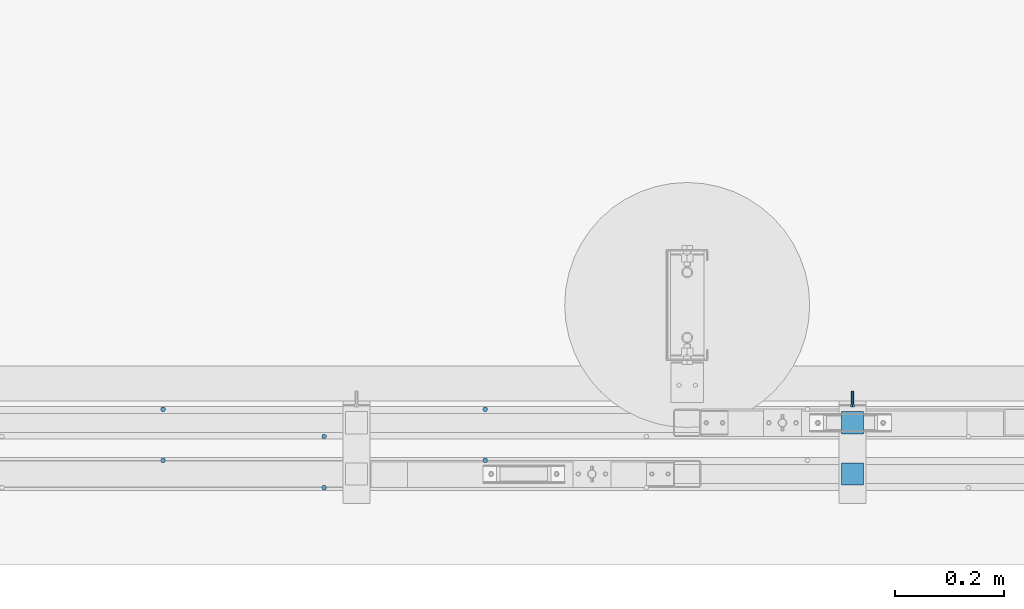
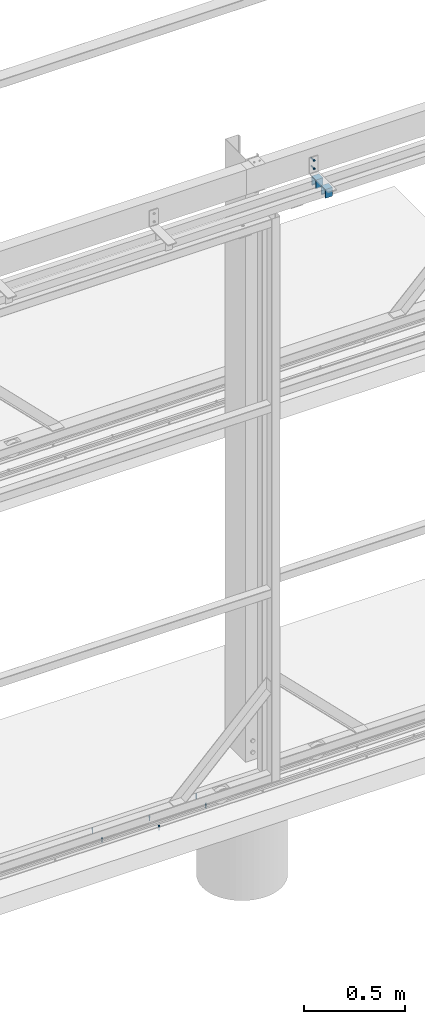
# One storey, part 45 of 91: 7 mechanical fasteners, 2 discrete accessories, 3 elements without a shape of their own.
"""IFC2X3 building model written with IfcOpenShell, lengths in millimetres."""

import ifcopenshell
import ifcopenshell.guid

model = None  # the IFC model being written
_history = None  # IfcOwnerHistory: only IFC2X3 demands one
_inside = {}  # id of a spatial element -> (the spatial element, [elements in it])
_under = {}  # id of a project, library or spatial element -> (it, [spatial elements below it])
_declared = {}  # id of a project -> (the project, [libraries it declares])
_typed = {}  # id of a type object -> (the type object, [elements of that type])
_made_of = {}  # id of a material, layer set ... -> (it, [elements and type objects made of it])


def new_model(schema):
    """Start an empty IFC model of exactly this schema.

    Asked for "IFC4X3", IfcOpenShell would pick the latest addendum, in which some entities
    have other attributes; the version numbers below select the first issue.
    IFC2X3 requires an IfcOwnerHistory on every rooted entity: one is made here for all.
    """
    global model, _history
    if schema == "IFC4X3":
        model = ifcopenshell.file(schema_version=(4, 3, 0, 0))
    else:
        model = ifcopenshell.file(schema=schema)
    _inside.clear()
    _under.clear()
    _declared.clear()
    _typed.clear()
    _made_of.clear()
    _history = None
    if model.schema == "IFC2X3":
        org = make("IfcOrganization", Name="unknown")
        user = make(
            "IfcPersonAndOrganization",
            ThePerson=make("IfcPerson", FamilyName="unknown"),
            TheOrganization=org,
        )
        app = make(
            "IfcApplication",
            ApplicationDeveloper=org,
            Version="unknown",
            ApplicationFullName="unknown",
            ApplicationIdentifier="unknown",
        )
        _history = make(
            "IfcOwnerHistory",
            OwningUser=user,
            OwningApplication=app,
            ChangeAction="ADDED",
            CreationDate=0,
        )
    return model


def make(cls, **values):
    """One entity of the class cls with the attributes given. An attribute that is None is left unset."""
    return model.create_entity(
        cls, **{name: value for name, value in values.items() if value is not None}
    )


def rooted(cls, **values):
    """An entity with a GlobalId (a new one), such as an element, a storey or a relation."""
    return make(cls, GlobalId=ifcopenshell.guid.new(), OwnerHistory=_history, **values)


def si_unit(unit_type, name, prefix=None):
    """IfcSIUnit, for example si_unit("LENGTHUNIT", "METRE", prefix="MILLI")."""
    return make("IfcSIUnit", UnitType=unit_type, Prefix=prefix, Name=name)


def assignment(units):
    """IfcUnitAssignment: the units of a project."""
    return None if units is None else make("IfcUnitAssignment", Units=units)


def point(xyz):
    """IfcCartesianPoint."""
    return None if xyz is None else make("IfcCartesianPoint", Coordinates=xyz)


def direction(xyz):
    """IfcDirection."""
    return None if xyz is None else make("IfcDirection", DirectionRatios=xyz)


def frame(location, z_axis=None, x_axis=None):
    """IfcAxis2Placement3D, a coordinate frame: its origin and axes. An axis left out is left unset."""
    return make(
        "IfcAxis2Placement3D",
        Location=point(location),
        Axis=direction(z_axis),
        RefDirection=direction(x_axis),
    )


def frame_2d(location, x_axis=None):
    """IfcAxis2Placement2D, a coordinate frame in the plane: its origin and x axis."""
    return make(
        "IfcAxis2Placement2D", Location=point(location), RefDirection=direction(x_axis)
    )


def origin_with_axes():
    """The frame at (0, 0, 0) with the z axis (0, 0, 1) and the x axis (1, 0, 0) written out."""
    return frame((0.0, 0.0, 0.0), z_axis=(0.0, 0.0, 1.0), x_axis=(1.0, 0.0, 0.0))


def origin_2d_with_axis():
    """The frame at (0, 0) in the plane with the x axis (1, 0) written out."""
    return frame_2d((0.0, 0.0), x_axis=(1.0, 0.0))


def place(relative_to, where):
    """IfcLocalPlacement: puts the frame where relative to a parent placement (None: the world)."""
    return make(
        "IfcLocalPlacement", PlacementRelTo=relative_to, RelativePlacement=where
    )


def context(
    kind, dimensions, precision=None, world=None, true_north=None, identifier=None
):
    """IfcGeometricRepresentationContext, for example the 3D "Model" context."""
    return make(
        "IfcGeometricRepresentationContext",
        ContextIdentifier=identifier,
        ContextType=kind,
        CoordinateSpaceDimension=dimensions,
        Precision=precision,
        WorldCoordinateSystem=world,
        TrueNorth=true_north,
    )


def subcontext(parent, identifier, kind, view, scale=None):
    """IfcGeometricRepresentationSubContext, for example "Body" below "Model"."""
    return make(
        "IfcGeometricRepresentationSubContext",
        ContextIdentifier=identifier,
        ContextType=kind,
        ParentContext=parent,
        TargetScale=scale,
        TargetView=view,
    )


def project(units=None, contexts=None):
    """IfcProject with its units and contexts."""
    return rooted(
        "IfcProject",
        Name="project",
        RepresentationContexts=contexts,
        UnitsInContext=assignment(units),
    )


def spatial(cls, under=None, at=None, **own):
    """A site, building, storey or space (cls), placed at a placement, below another one or the project."""
    s = rooted(cls, ObjectPlacement=at, **own)
    if under is not None:
        _under.setdefault(under.id(), (under, []))[1].append(s)
    return s


def polyline(points):
    """IfcPolyline through the points."""
    return make("IfcPolyline", Points=[point(p) for p in points])


def profile(cls, at=None, kind="AREA", **sizes):
    """A parametric profile (cls). Its sizes go by their IFC names, for example OverallWidth=200.0."""
    return make(cls, ProfileType=kind, Position=at, **sizes)


def circle(**sizes):
    """IfcCircleProfileDef."""
    return profile("IfcCircleProfileDef", **sizes)


def c_section(**sizes):
    """IfcCShapeProfileDef."""
    return profile("IfcCShapeProfileDef", **sizes)


def outline(outer, holes=None, kind="AREA"):
    """IfcArbitraryClosedProfileDef: a profile drawn as a closed curve; with holes, ...WithVoids."""
    if holes is None:
        return make("IfcArbitraryClosedProfileDef", ProfileType=kind, OuterCurve=outer)
    return make(
        "IfcArbitraryProfileDefWithVoids",
        ProfileType=kind,
        OuterCurve=outer,
        InnerCurves=holes,
    )


def extrude(swept, where, along, depth):
    """IfcExtrudedAreaSolid: the profile swept, set in the frame where, extruded along a direction by depth."""
    return make(
        "IfcExtrudedAreaSolid",
        SweptArea=swept,
        Position=where,
        ExtrudedDirection=direction(along),
        Depth=depth,
    )


def shape(context_of_items, identifier, shape_type, items):
    """IfcShapeRepresentation: the items that make up one representation, for example the "Body"."""
    return make(
        "IfcShapeRepresentation",
        ContextOfItems=context_of_items,
        RepresentationIdentifier=identifier,
        RepresentationType=shape_type,
        Items=items,
    )


def source(mapping_origin, context_of_items, identifier, shape_type, items):
    """IfcRepresentationMap: a shape defined once, which mapped items show again and again."""
    return make(
        "IfcRepresentationMap",
        MappingOrigin=mapping_origin,
        MappedRepresentation=shape(context_of_items, identifier, shape_type, items),
    )


def transform(
    local_origin,
    x_axis=None,
    y_axis=None,
    z_axis=None,
    scale=None,
    scale2=None,
    scale3=None,
    uniform=True,
):
    """IfcCartesianTransformationOperator3D, or its non-uniform kind. x_axis, y_axis, z_axis: its Axis1, 2, 3."""
    if uniform:
        return make(
            "IfcCartesianTransformationOperator3D",
            Axis1=direction(x_axis),
            Axis2=direction(y_axis),
            LocalOrigin=point(local_origin),
            Scale=scale,
            Axis3=direction(z_axis),
        )
    return make(
        "IfcCartesianTransformationOperator3DnonUniform",
        Axis1=direction(x_axis),
        Axis2=direction(y_axis),
        LocalOrigin=point(local_origin),
        Scale=scale,
        Axis3=direction(z_axis),
        Scale2=scale2,
        Scale3=scale3,
    )


def mapped(mapping_source, mapping_target):
    """IfcMappedItem: shows the shape of a source again, moved by a transform."""
    return make(
        "IfcMappedItem", MappingSource=mapping_source, MappingTarget=mapping_target
    )


def material(Name=None, Category=None):
    """IfcMaterial."""
    return make("IfcMaterial", Name=Name, Category=Category)


def made_of(thing, what):
    """Note that an element or type object is made of a material, layer set ...; save() writes the relation."""
    if what is not None:
        _made_of.setdefault(what.id(), (what, []))[1].append(thing)
    return thing


def type_object(cls, material=None, **own):
    """A type object (cls), such as IfcWallType, which elements share."""
    return made_of(rooted(cls, **own), material)


def element(
    cls,
    number,
    at=None,
    inside=None,
    cuts=None,
    type_object=None,
    material=None,
    context=None,
    identifier="Body",
    shape_type=None,
    held_by="IfcProductDefinitionShape",
    body=None,
    shapes=None,
    **own,
):
    """One element of the class cls, such as IfcWall. Its Tag is "e" and its number.

    at: its placement. inside: the storey or other place that contains it. cuts: it is an
    opening in that element (IfcRelVoidsElement). A single representation is given by context,
    identifier, shape_type and body (its items); several are given by shapes. held_by: the class
    of the entity that holds the representations. save() writes the other relations.
    """
    e = rooted(cls, Tag="e%d" % number, ObjectPlacement=at, **own)
    if body is not None:
        shapes = [shape(context, identifier, shape_type, body)]
    if shapes is not None:
        e.Representation = make(held_by, Representations=shapes)
    if inside is not None:
        _inside.setdefault(inside.id(), (inside, []))[1].append(e)
    if cuts is not None:
        rooted(
            "IfcRelVoidsElement", RelatingBuildingElement=cuts, RelatedOpeningElement=e
        )
    if type_object is not None:
        _typed.setdefault(type_object.id(), (type_object, []))[1].append(e)
    return made_of(e, material)


def aggregate(whole, parts):
    """IfcRelAggregates: a whole, such as a stair, and the parts it consists of."""
    return rooted("IfcRelAggregates", RelatingObject=whole, RelatedObjects=parts)


def save(model, path):
    """Write the relations noted so far, then the file.

    IfcRelAggregates (storeys below a building ...), IfcRelContainedInSpatialStructure (elements
    in a storey), IfcRelDefinesByType, IfcRelAssociatesMaterial and IfcRelDeclares: one each for
    every whole, place, type object, material and project.
    """
    for whole, parts in _under.values():
        aggregate(whole, parts)
    for where, things in _inside.values():
        rooted(
            "IfcRelContainedInSpatialStructure",
            RelatedElements=things,
            RelatingStructure=where,
        )
    for kind, things in _typed.values():
        rooted("IfcRelDefinesByType", RelatedObjects=things, RelatingType=kind)
    for what, things in _made_of.values():
        rooted("IfcRelAssociatesMaterial", RelatedObjects=things, RelatingMaterial=what)
    for by, libraries in _declared.values():
        rooted("IfcRelDeclares", RelatingContext=by, RelatedDefinitions=libraries)
    model.write(path)


model = new_model("IFC2X3")

# Units and contexts
model_context = context("Model", 3, precision=1e-05, world=origin_with_axes())
body_context = subcontext(model_context, "Body", "Model", "MODEL_VIEW")
ifc_project = project(units=[si_unit("LENGTHUNIT", "METRE", prefix="MILLI"), si_unit("AREAUNIT", "SQUARE_METRE"), si_unit("VOLUMEUNIT", "CUBIC_METRE"), si_unit("MASSUNIT", "GRAM", prefix="KILO"), si_unit("TIMEUNIT", "SECOND"), si_unit("PLANEANGLEUNIT", "RADIAN"), si_unit("SOLIDANGLEUNIT", "STERADIAN"), si_unit("THERMODYNAMICTEMPERATUREUNIT", "DEGREE_CELSIUS"), si_unit("LUMINOUSINTENSITYUNIT", "LUMEN")], contexts=[model_context])

# Site, building, storey
site_placement = place(None, origin_with_axes())
site = spatial("IfcSite", under=ifc_project, at=site_placement, Name="Undefined", CompositionType="ELEMENT")
building_placement = place(site_placement, origin_with_axes())
building = spatial("IfcBuilding", under=site, at=building_placement, Name="Undefined", CompositionType="ELEMENT")
storey_placement = place(building_placement, origin_with_axes())
storey = spatial("IfcBuildingStorey", under=building, at=storey_placement, Name="Undefined", CompositionType="ELEMENT", Elevation=0.0)

# Assembly, mechanical fastener
assembly_1_placement = place(storey_placement, origin_with_axes())
assembly_1 = element("IfcElementAssembly", 1, at=assembly_1_placement, inside=storey, Name="DOOR BRACKET", AssemblyPlace="NOTDEFINED", PredefinedType="RIGID_FRAME")
ifc_material_1 = material(Name="TEK_11TPIM")
discrete_accessory_type_1 = type_object("IfcDiscreteAccessoryType", Name="Bolt assembly")
shared_shape_1 = source(origin_with_axes(), body_context, "Body", "SweptSolid", [
    extrude(circle(Radius=3.0, at=origin_2d_with_axis()), frame((0.0, -6.0, 0.0), z_axis=(0.0, 1.0, 0.0), x_axis=(1.0, 0.0, 0.0)), (0.0, 0.0, 1.0), 6.1),
    extrude(outline(polyline([(4.61880215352, 0.0), (2.30940107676, 4.00000000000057), (-2.30940107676, 4.00000000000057), (-4.61880215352, 0.0), (-2.30940107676, -4.00000000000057), (2.30940107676, -4.00000000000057), (4.61880215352, 0.0)])), frame((0.0, -11.1000000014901, 0.0), z_axis=(0.0, 1.0, 0.0), x_axis=(1.0, 0.0, 0.0)), (0.0, 0.0, 1.0), 5.0),
    extrude(circle(Radius=3.0, at=origin_2d_with_axis()), frame((0.0, -6.10000000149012, 0.0), z_axis=(0.0, 1.0, 0.0), x_axis=(1.0, 0.0, 0.0)), (0.0, 0.0, 1.0), 25.0),
    extrude(circle(Radius=3.0, at=origin_2d_with_axis()), frame((0.0, -6.10000000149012, 0.0), z_axis=(0.0, 1.0, 0.0), x_axis=(1.0, 0.0, 0.0)), (0.0, 0.0, 1.0), 0.1),
    extrude(circle(Radius=3.0, at=origin_2d_with_axis()), frame((0.0, 0.0, 0.0), z_axis=(0.0, 1.0, 0.0), x_axis=(1.0, 0.0, 0.0)), (0.0, 0.0, 1.0), 0.1),
    extrude(outline(polyline([(3.46410161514, 0.0), (1.73205080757, 3.00000000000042), (-1.73205080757, 3.00000000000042), (-3.46410161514, 0.0), (-1.73205080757, -3.00000000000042), (1.73205080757, -3.00000000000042), (3.46410161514, 0.0)])), frame((0.0, 0.1, 0.0), z_axis=(0.0, 1.0, 0.0), x_axis=(1.0, 0.0, 0.0)), (0.0, 0.0, 1.0), 0.1),
])
mechanical_fastener_1_placement = place(assembly_1_placement, frame((-110417.09, 84752.15, 3524.0), z_axis=(1.0, 0.0, 0.0), x_axis=(0.0, 0.0, -1.0)))
mechanical_fastener_1 = element("IfcMechanicalFastener", 2, at=mechanical_fastener_1_placement, type_object=discrete_accessory_type_1, material=ifc_material_1, Name="Bolt assembly", NominalDiameter=6.0, NominalLength=25.0, context=body_context, shape_type="MappedRepresentation", body=[
    mapped(shared_shape_1, transform((0.0, 0.0, 0.0))),
    mapped(shared_shape_1, transform((50.0, 0.0, 0.0))),
])

# Assembly, mechanical fasteners
assembly_2_placement = place(storey_placement, origin_with_axes())
assembly_2 = element("IfcElementAssembly", 3, at=assembly_2_placement, inside=storey, Name="DOOR TRACK", AssemblyPlace="NOTDEFINED", PredefinedType="RIGID_FRAME")
ifc_material_2 = material(Name="TEK_10TPII")
shared_shape_2 = source(origin_with_axes(), body_context, "Body", "SweptSolid", [
    extrude(circle(Radius=4.07999992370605, at=origin_2d_with_axis()), frame((0.0, 0.0, 0.0), z_axis=(0.0, 1.0, 0.0), x_axis=(1.0, 0.0, 0.0)), (0.0, 0.0, 1.0), 3.1),
    extrude(outline(polyline([(4.61880215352, 0.0), (2.30940107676, 4.00000000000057), (-2.30940107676, 4.00000000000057), (-4.61880215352, 0.0), (-2.30940107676, -4.00000000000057), (2.30940107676, -4.00000000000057), (4.61880215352, 0.0)])), frame((0.0, -5.0, 0.0), z_axis=(0.0, 1.0, 0.0), x_axis=(1.0, 0.0, 0.0)), (0.0, 0.0, 1.0), 5.0),
    extrude(circle(Radius=3.07999992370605, at=origin_2d_with_axis()), frame((0.0, 0.0, 0.0), z_axis=(0.0, 1.0, 0.0), x_axis=(1.0, 0.0, 0.0)), (0.0, 0.0, 1.0), 25.0),
    extrude(circle(Radius=3.0, at=origin_2d_with_axis()), frame((0.0, 3.0, 0.0), z_axis=(0.0, 1.0, 0.0), x_axis=(1.0, 0.0, 0.0)), (0.0, 0.0, 1.0), 0.1),
    extrude(outline(polyline([(3.46410161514, 0.0), (1.73205080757, 3.00000000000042), (-1.73205080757, 3.00000000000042), (-3.46410161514, 0.0), (-1.73205080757, -3.00000000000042), (1.73205080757, -3.00000000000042), (3.46410161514, 0.0)])), frame((0.0, 3.10000000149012, 0.0), z_axis=(0.0, 1.0, 0.0), x_axis=(1.0, 0.0, 0.0)), (0.0, 0.0, 1.0), 0.1),
])
mechanical_fastener_2_placement = place(assembly_2_placement, frame((-111091.74, 84737.151953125, -54.0), z_axis=(0.0, 1.0, 0.0), x_axis=(1.0, 0.0, 0.0)))
mechanical_fastener_2 = element("IfcMechanicalFastener", 4, at=mechanical_fastener_2_placement, type_object=discrete_accessory_type_1, material=ifc_material_2, Name="Bolt assembly", NominalDiameter=6.15999984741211, NominalLength=25.0, context=body_context, shape_type="MappedRepresentation", body=[
    mapped(shared_shape_2, transform((0.0, 0.0, 0.0))),
])
mechanical_fastener_3_placement = place(assembly_2_placement, frame((-111387.64, 84687.151953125, -54.0), z_axis=(0.0, 1.0, 0.0), x_axis=(1.0, 0.0, 0.0)))
mechanical_fastener_3 = element("IfcMechanicalFastener", 5, at=mechanical_fastener_3_placement, type_object=discrete_accessory_type_1, material=ifc_material_2, Name="Bolt assembly", NominalDiameter=6.15999984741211, NominalLength=25.0, context=body_context, shape_type="MappedRepresentation", body=[
    mapped(shared_shape_2, transform((0.0, 0.0, 0.0))),
])
mechanical_fastener_4_placement = place(assembly_2_placement, frame((-111683.54, 84737.151953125, -54.0), z_axis=(0.0, 1.0, 0.0), x_axis=(1.0, 0.0, 0.0)))
mechanical_fastener_4 = element("IfcMechanicalFastener", 6, at=mechanical_fastener_4_placement, type_object=discrete_accessory_type_1, material=ifc_material_2, Name="Bolt assembly", NominalDiameter=6.15999984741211, NominalLength=25.0, context=body_context, shape_type="MappedRepresentation", body=[
    mapped(shared_shape_2, transform((0.0, 0.0, 0.0))),
])
aggregate(assembly_2, [mechanical_fastener_2, mechanical_fastener_3, mechanical_fastener_4])

assembly_3_placement = place(storey_placement, origin_with_axes())
assembly_3 = element("IfcElementAssembly", 7, at=assembly_3_placement, inside=storey, Name="DOOR TRACK", AssemblyPlace="NOTDEFINED", PredefinedType="RIGID_FRAME")
mechanical_fastener_5_placement = place(assembly_3_placement, frame((-111091.74, 84643.151953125, -54.0), z_axis=(0.0, 1.0, 0.0), x_axis=(1.0, 0.0, 0.0)))
mechanical_fastener_5 = element("IfcMechanicalFastener", 8, at=mechanical_fastener_5_placement, type_object=discrete_accessory_type_1, material=ifc_material_2, Name="Bolt assembly", NominalDiameter=6.15999984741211, NominalLength=25.0, context=body_context, shape_type="MappedRepresentation", body=[
    mapped(shared_shape_2, transform((0.0, 0.0, 0.0))),
])
mechanical_fastener_6_placement = place(assembly_3_placement, frame((-111387.64, 84593.151953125, -54.0), z_axis=(0.0, 1.0, 0.0), x_axis=(1.0, 0.0, 0.0)))
mechanical_fastener_6 = element("IfcMechanicalFastener", 9, at=mechanical_fastener_6_placement, type_object=discrete_accessory_type_1, material=ifc_material_2, Name="Bolt assembly", NominalDiameter=6.15999984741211, NominalLength=25.0, context=body_context, shape_type="MappedRepresentation", body=[
    mapped(shared_shape_2, transform((0.0, 0.0, 0.0))),
])
mechanical_fastener_7_placement = place(assembly_3_placement, frame((-111683.54, 84643.151953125, -54.0), z_axis=(0.0, 1.0, 0.0), x_axis=(1.0, 0.0, 0.0)))
mechanical_fastener_7 = element("IfcMechanicalFastener", 10, at=mechanical_fastener_7_placement, type_object=discrete_accessory_type_1, material=ifc_material_2, Name="Bolt assembly", NominalDiameter=6.15999984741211, NominalLength=25.0, context=body_context, shape_type="MappedRepresentation", body=[
    mapped(shared_shape_2, transform((0.0, 0.0, 0.0))),
])
aggregate(assembly_3, [mechanical_fastener_5, mechanical_fastener_6, mechanical_fastener_7])

# Discrete accessory
ifc_material_3 = material(Name="STEEL/250")
discrete_accessory_type_2 = type_object("IfcDiscreteAccessoryType", Name="SLIDING DOOR BRACKET")
discrete_accessory_1_placement = place(assembly_1_placement, frame((-110437.09, 84618.15, 3417.5), z_axis=(0.0, -1.0, 0.0), x_axis=(1.0, 0.0, 0.0)))
discrete_accessory_1 = element("IfcDiscreteAccessory", 11, at=discrete_accessory_1_placement, type_object=discrete_accessory_type_2, material=ifc_material_3, Name="SLIDING DOOR BRACKET", ObjectType="CC41-1.5-7-53", context=body_context, shape_type="SweptSolid", body=[
    extrude(c_section(Depth=41.0, Width=53.0, WallThickness=1.5, Girth=7.0, at=origin_2d_with_axis()), frame((40.0, 0.0, 0.0), z_axis=(-1.0, 0.0, 0.0), x_axis=(0.0, -1.0, 0.0)), (0.0, 0.0, 1.0), 40.0),
])

discrete_accessory_2_placement = place(assembly_1_placement, frame((-110437.09, 84712.15, 3417.5), z_axis=(0.0, -1.0, 0.0), x_axis=(1.0, 0.0, 0.0)))
discrete_accessory_2 = element("IfcDiscreteAccessory", 12, at=discrete_accessory_2_placement, type_object=discrete_accessory_type_2, material=ifc_material_3, Name="SLIDING DOOR BRACKET", ObjectType="CC41-1.5-7-53", context=body_context, shape_type="SweptSolid", body=[
    extrude(c_section(Depth=41.0, Width=53.0, WallThickness=1.5, Girth=7.0, at=origin_2d_with_axis()), frame((40.0, 0.0, 0.0), z_axis=(-1.0, 0.0, 0.0), x_axis=(0.0, -1.0, 0.0)), (0.0, 0.0, 1.0), 40.0),
])

aggregate(assembly_1, [mechanical_fastener_1, discrete_accessory_1, discrete_accessory_2])

save(model, "model.ifc")
